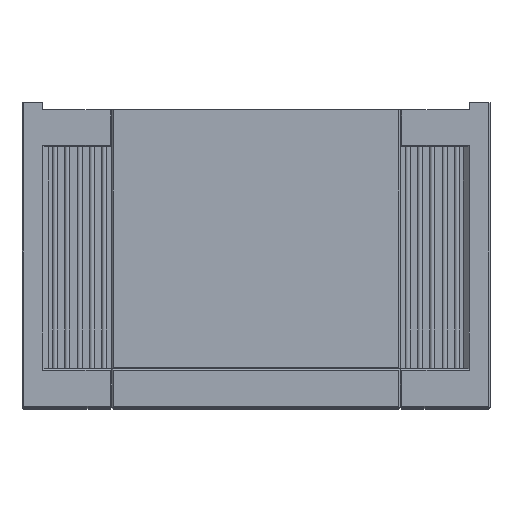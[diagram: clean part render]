
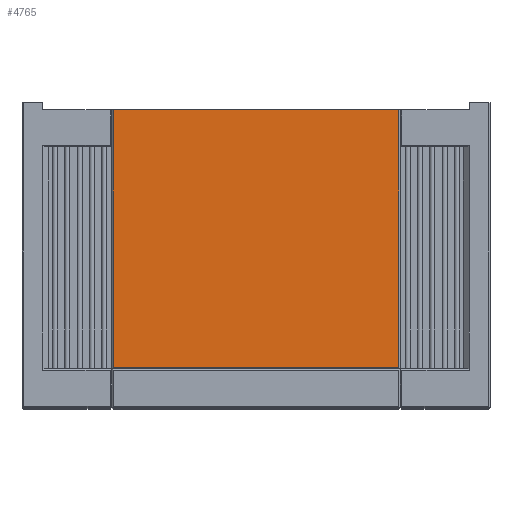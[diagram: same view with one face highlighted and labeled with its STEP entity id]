
A CAD part, top view. The second image highlights one B-rep face of the part: STEP entity #4765.
In plain terms, the highlighted planar face has unit normal (0, 0, 1).
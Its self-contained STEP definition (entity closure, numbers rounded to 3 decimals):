
#4765 = ADVANCED_FACE( '', ( #9681 ), #9682, .T. );
#9681 = FACE_OUTER_BOUND( '', #14995, .T. );
#9682 = PLANE( '', #14996 );
#14995 = EDGE_LOOP( '', ( #31214, #31215, #31216, #31217 ) );
#14996 = AXIS2_PLACEMENT_3D( '', #31218, #31219, #31220 );
#31214 = ORIENTED_EDGE( '', *, *, #36376, .T. );
#31215 = ORIENTED_EDGE( '', *, *, #36087, .T. );
#31216 = ORIENTED_EDGE( '', *, *, #37159, .F. );
#31217 = ORIENTED_EDGE( '', *, *, #33157, .T. );
#31218 = CARTESIAN_POINT( '', ( -293., -15., 1752. ) );
#31219 = DIRECTION( '', ( 0., 0., 1. ) );
#31220 = DIRECTION( '', ( 1., 0., 0. ) );
#33157 = EDGE_CURVE( '', #39734, #39736, #39738, .T. );
#36087 = EDGE_CURVE( '', #44217, #44214, #44218, .T. );
#36376 = EDGE_CURVE( '', #39736, #44217, #44602, .T. );
#37159 = EDGE_CURVE( '', #39734, #44214, #45503, .T. );
#39734 = VERTEX_POINT( '', #49625 );
#39736 = VERTEX_POINT( '', #49628 );
#39738 = LINE( '', #49631, #49632 );
#44214 = VERTEX_POINT( '', #60251 );
#44217 = VERTEX_POINT( '', #60255 );
#44218 = LINE( '', #60256, #60257 );
#44602 = LINE( '', #61039, #61040 );
#45503 = LINE( '', #62751, #62752 );
#49625 = CARTESIAN_POINT( '', ( -290., -15., 1752. ) );
#49628 = CARTESIAN_POINT( '', ( -290., -537.183, 1752. ) );
#49631 = CARTESIAN_POINT( '', ( -290., -15., 1752. ) );
#49632 = VECTOR( '', #64916, 1000. );
#60251 = CARTESIAN_POINT( '', ( 290., -15., 1752. ) );
#60255 = CARTESIAN_POINT( '', ( 290., -537.183, 1752. ) );
#60256 = CARTESIAN_POINT( '', ( 290., -15., 1752. ) );
#60257 = VECTOR( '', #66757, 1000. );
#61039 = CARTESIAN_POINT( '', ( -293., -537.183, 1752. ) );
#61040 = VECTOR( '', #67047, 1000. );
#62751 = CARTESIAN_POINT( '', ( -293., -15., 1752. ) );
#62752 = VECTOR( '', #67493, 1000. );
#64916 = DIRECTION( '', ( 0., -1., 0. ) );
#66757 = DIRECTION( '', ( 0., 1., 0. ) );
#67047 = DIRECTION( '', ( 1., 0., 0. ) );
#67493 = DIRECTION( '', ( 1., 0., 0. ) );
